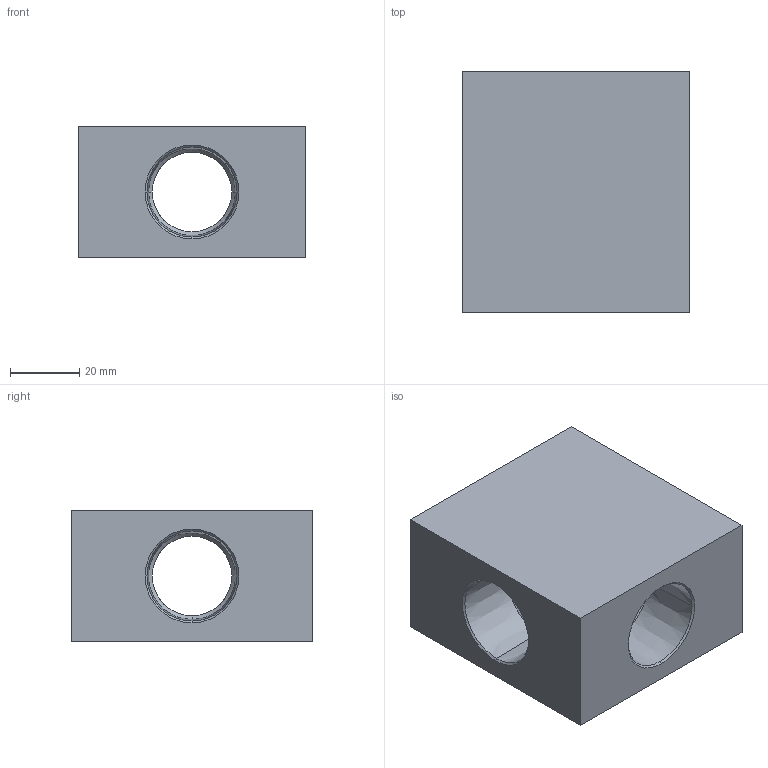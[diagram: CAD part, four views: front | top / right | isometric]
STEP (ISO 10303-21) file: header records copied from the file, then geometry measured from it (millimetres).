
FILE_DESCRIPTION (( 'STEP AP203' ), '1' );
FILE_NAME ('FTPCS12.STEP', '2026-06-26T00:54:39', ( 'USER' ), ( '' ), 'SwSTEP 2.0', 'SolidWorks 2023', '' );
FILE_SCHEMA (( 'CONFIG_CONTROL_DESIGN' ));
Length unit declared in the file: millimetre
Products named in the file (1): FTPCS12
Bounding box: 66 x 70 x 38 mm (x, y, z)
Volume: 119660.5 mm3; surface area: 25797.2 mm2
Topology: 1 solids, 1 shells, 38 faces, 88 edges, 50 vertices
Faces by surface type: cone 24, cylinder 8, plane 6
Entity records: 1149 total; most frequent: CARTESIAN_POINT 201, DIRECTION 194, ORIENTED_EDGE 176, EDGE_CURVE 88, AXIS2_PLACEMENT_3D 75, VERTEX_POINT 50, LINE 44, VECTOR 44
